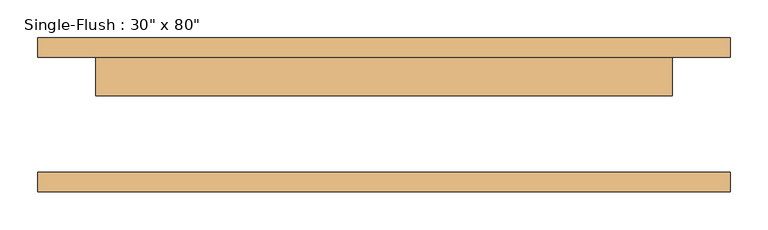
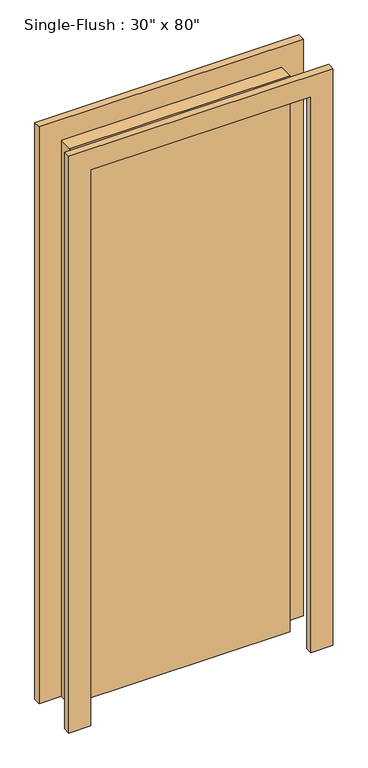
"""IFC4 building model written with IfcOpenShell, lengths in millimetres: door geometry."""

from ifc_helpers import new_model, si_unit, frame, origin, origin_with_axes, place, context, project, spatial, polyline, outline, extrude, source, transform, mapped, element, save


def door_059fdd7e(model_context):
    return source(origin(), model_context, "Body", "SweptSolid", [
        extrude(outline(polyline([(2108.2, -457.2), (0.0, -457.2), (0.0, -381.0), (2032.0, -381.0), (2032.0, 381.0), (0.0, 381.0), (0.0, 457.2), (2108.2, 457.2), (2108.2, -457.2)])), frame((0.0, 76.2, 0.0), z_axis=(0.0, 1.0, 0.0), x_axis=(0.0, 0.0, 1.0)), (0.0, 0.0, 1.0), 25.4),
        extrude(outline(polyline([(2108.2, 457.2), (2108.2, -457.2), (0.0, -457.2), (0.0, -381.0), (2032.0, -381.0), (2032.0, 381.0), (0.0, 381.0), (0.0, 457.2), (2108.2, 457.2)])), frame((0.0, -101.6, 0.0), z_axis=(0.0, 1.0, 0.0), x_axis=(0.0, 0.0, 1.0)), (0.0, 0.0, 1.0), 25.4),
        extrude(outline(polyline([(381.0, 25.4), (-381.0, 25.4), (-381.0, 76.2), (381.0, 76.2), (381.0, 25.4)])), origin_with_axes(), (0.0, 0.0, 1.0), 2032.0),
    ])


if __name__ == "__main__":
    model = new_model("IFC4")
    model_context = context("Model", 3, world=origin())
    ifc_project = project(units=[si_unit("LENGTHUNIT", "METRE", prefix="MILLI")], contexts=[model_context])
    site = spatial("IfcSite", under=ifc_project)
    building = spatial("IfcBuilding", under=site)
    placement = place(None, origin())
    door_shape = door_059fdd7e(model_context)
    element("IfcDoor", 1, ObjectType="Single-Flush : 30\" x 80\"", at=placement, inside=building, context=model_context, shape_type="MappedRepresentation", body=[
        mapped(door_shape, transform((0.0, 0.0, 0.0), x_axis=(1.0, 0.0, 0.0), y_axis=(0.0, 1.0, 0.0), z_axis=(0.0, 0.0, 1.0))),
    ])
    save(model, "model.ifc")
